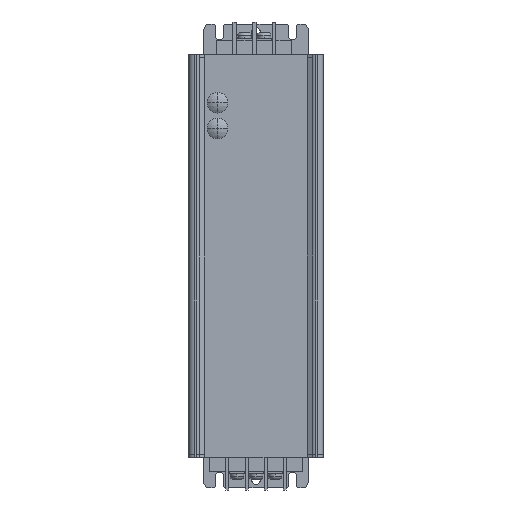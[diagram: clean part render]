
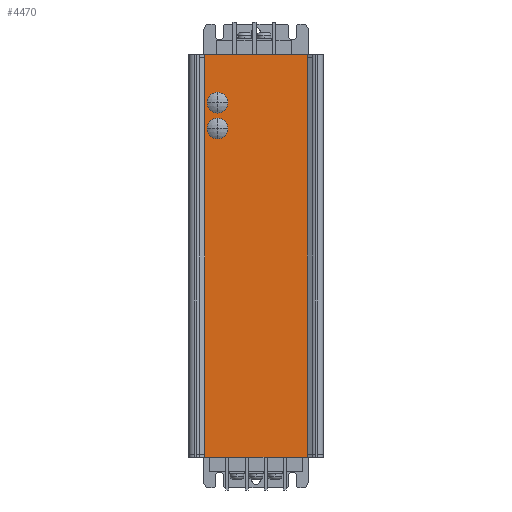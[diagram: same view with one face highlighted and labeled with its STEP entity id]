
A CAD part, left-side view. The second image highlights one B-rep face of the part: STEP entity #4470.
In plain terms, the highlighted planar face has unit normal (-1, 0, 0).
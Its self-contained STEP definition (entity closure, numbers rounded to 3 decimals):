
#3180=CARTESIAN_POINT('',(1767.992,-2398.164,189.));
#3190=VERTEX_POINT('',#3180);
#3220=CARTESIAN_POINT('',(1767.992,-2398.164,0.));
#3230=DIRECTION('',(0.,0.,1.));
#3240=VECTOR('',#3230,1.);
#3250=LINE('',#3220,#3240);
#3260=CARTESIAN_POINT('',(1767.992,-2398.164,-11.8));
#3270=VERTEX_POINT('',#3260);
#3280=EDGE_CURVE('',#3270,#3190,#3250,.T.);
#3390=CARTESIAN_POINT('',(1767.992,-2450.164,0.));
#3400=DIRECTION('',(-1.,0.,0.));
#3410=DIRECTION('',(0.,1.,0.));
#3420=AXIS2_PLACEMENT_3D('',#3390,#3400,#3410);
#3430=PLANE('',#3420);
#3440=CARTESIAN_POINT('',(1767.992,-2404.664,
153.2));
#3450=DIRECTION('',(-1.,0.,0.));
#3460=DIRECTION('',(0.,-1.,0.));
#3470=AXIS2_PLACEMENT_3D('',#3440,#3450,#3460);
#3480=CIRCLE('',#3470,5.25);
#3490=CARTESIAN_POINT('',(1767.992,-2399.414,
153.2));
#3500=VERTEX_POINT('',#3490);
#3510=CARTESIAN_POINT('',(1767.992,-2409.914,
153.2));
#3520=VERTEX_POINT('',#3510);
#3530=EDGE_CURVE('',#3500,#3520,#3480,.T.);
#3540=ORIENTED_EDGE('',*,*,#3530,.F.);
#3550=EDGE_CURVE('',#3520,#3500,#3480,.T.);
#3560=ORIENTED_EDGE('',*,*,#3550,.F.);
#3570=EDGE_LOOP('',(#3560,#3540));
#3580=FACE_BOUND('',#3570,.T.);
#3590=CARTESIAN_POINT('',(1767.992,-2404.664,
166.2));
#3600=DIRECTION('',(-1.,0.,0.));
#3610=DIRECTION('',(0.,-1.,0.));
#3620=AXIS2_PLACEMENT_3D('',#3590,#3600,#3610);
#3630=CIRCLE('',#3620,5.25);
#3640=CARTESIAN_POINT('',(1767.992,-2399.414,
166.2));
#3650=VERTEX_POINT('',#3640);
#3660=CARTESIAN_POINT('',(1767.992,-2409.914,
166.2));
#3670=VERTEX_POINT('',#3660);
#3680=EDGE_CURVE('',#3650,#3670,#3630,.T.);
#3690=ORIENTED_EDGE('',*,*,#3680,.F.);
#3700=EDGE_CURVE('',#3670,#3650,#3630,.T.);
#3710=ORIENTED_EDGE('',*,*,#3700,.F.);
#3720=EDGE_LOOP('',(#3710,#3690));
#3730=FACE_BOUND('',#3720,.T.);
#3740=CARTESIAN_POINT('',(1767.992,-2450.114,-13.56
));
#3750=DIRECTION('',(0.,0.,1.));
#3760=VECTOR('',#3750,1.);
#3770=LINE('',#3740,#3760);
#3780=CARTESIAN_POINT('',(1767.992,-2450.114,-13.4));
#3790=VERTEX_POINT('',#3780);
#3800=CARTESIAN_POINT('',(1767.992,-2450.114,-11.8));
#3810=VERTEX_POINT('',#3800);
#3820=EDGE_CURVE('',#3790,#3810,#3770,.T.);
#3830=ORIENTED_EDGE('',*,*,#3820,.T.);
#3840=CARTESIAN_POINT('',(1767.992,-4401.398,-13.4));
#3850=DIRECTION('',(0.,1.,0.));
#3860=VECTOR('',#3850,1.);
#3870=LINE('',#3840,#3860);
#3880=CARTESIAN_POINT('',(1767.992,-2398.114,-13.4));
#3890=VERTEX_POINT('',#3880);
#3900=EDGE_CURVE('',#3790,#3890,#3870,.T.);
#3910=ORIENTED_EDGE('',*,*,#3900,.F.);
#3920=CARTESIAN_POINT('',(1767.992,-2398.114,-13.56
));
#3930=DIRECTION('',(0.,0.,1.));
#3940=VECTOR('',#3930,1.);
#3950=LINE('',#3920,#3940);
#3960=CARTESIAN_POINT('',(1767.992,-2398.114,-11.8));
#3970=VERTEX_POINT('',#3960);
#3980=EDGE_CURVE('',#3890,#3970,#3950,.T.);
#3990=ORIENTED_EDGE('',*,*,#3980,.F.);
#4000=CARTESIAN_POINT('',(1767.992,0.,-11.8));
#4010=DIRECTION('',(0.,1.,0.));
#4020=VECTOR('',#4010,1.);
#4030=LINE('',#4000,#4020);
#4040=EDGE_CURVE('',#3270,#3970,#4030,.T.);
#4050=ORIENTED_EDGE('',*,*,#4040,.T.);
#4060=ORIENTED_EDGE('',*,*,#3280,.F.);
#4070=CARTESIAN_POINT('',(1767.992,-2398.164,
190.76));
#4080=DIRECTION('',(0.,0.,-1.));
#4090=VECTOR('',#4080,1.);
#4100=LINE('',#4070,#4090);
#4110=CARTESIAN_POINT('',(1767.992,-2398.164,
190.6));
#4120=VERTEX_POINT('',#4110);
#4130=EDGE_CURVE('',#4120,#3190,#4100,.T.);
#4140=ORIENTED_EDGE('',*,*,#4130,.T.);
#4150=CARTESIAN_POINT('',(1767.992,-446.879,
190.6));
#4160=DIRECTION('',(0.,-1.,0.));
#4170=VECTOR('',#4160,1.);
#4180=LINE('',#4150,#4170);
#4190=CARTESIAN_POINT('',(1767.992,-2450.164,
190.6));
#4200=VERTEX_POINT('',#4190);
#4210=EDGE_CURVE('',#4120,#4200,#4180,.T.);
#4220=ORIENTED_EDGE('',*,*,#4210,.F.);
#4230=CARTESIAN_POINT('',(1767.992,-2450.164,
190.76));
#4240=DIRECTION('',(0.,0.,-1.));
#4250=VECTOR('',#4240,1.);
#4260=LINE('',#4230,#4250);
#4270=CARTESIAN_POINT('',(1767.992,-2450.164,
189.));
#4280=VERTEX_POINT('',#4270);
#4290=EDGE_CURVE('',#4200,#4280,#4260,.T.);
#4300=ORIENTED_EDGE('',*,*,#4290,.F.);
#4310=CARTESIAN_POINT('',(1767.992,-2450.164,0.));
#4320=DIRECTION('',(0.,0.,1.));
#4330=VECTOR('',#4320,1.);
#4340=LINE('',#4310,#4330);
#4350=CARTESIAN_POINT('',(1767.992,-2450.164,-11.8));
#4360=VERTEX_POINT('',#4350);
#4370=EDGE_CURVE('',#4360,#4280,#4340,.T.);
#4380=ORIENTED_EDGE('',*,*,#4370,.T.);
#4390=CARTESIAN_POINT('',(1767.992,0.,-11.8));
#4400=DIRECTION('',(0.,1.,0.));
#4410=VECTOR('',#4400,1.);
#4420=LINE('',#4390,#4410);
#4430=EDGE_CURVE('',#4360,#3810,#4420,.T.);
#4440=ORIENTED_EDGE('',*,*,#4430,.F.);
#4450=EDGE_LOOP('',(#4440,#4380,#4300,#4220,#4140,#4060,#4050,#3990,
#3910,#3830));
#4460=FACE_OUTER_BOUND('',#4450,.T.);
#4470=ADVANCED_FACE('',(#3580,#3730,#4460),#3430,.T.);
